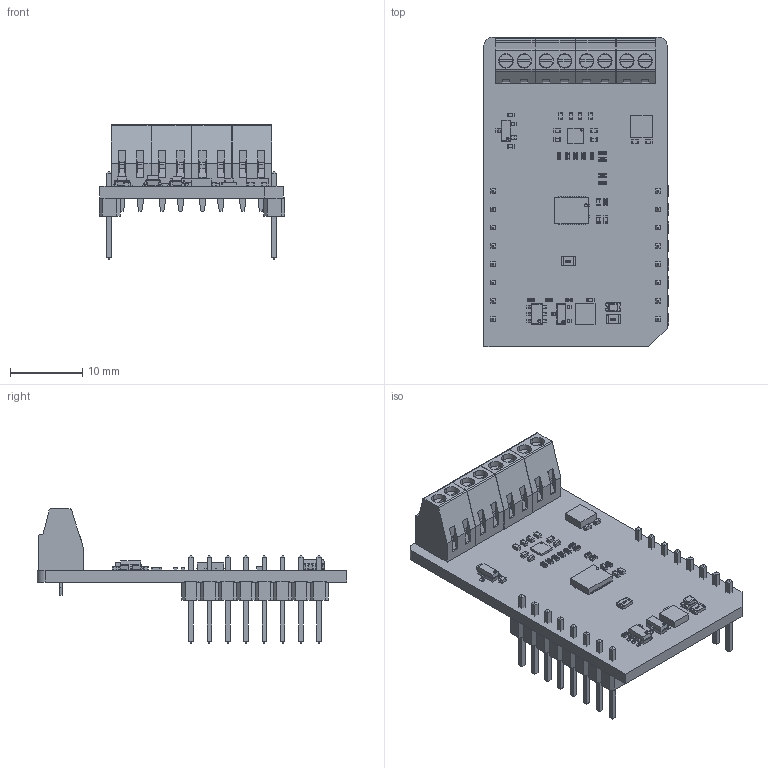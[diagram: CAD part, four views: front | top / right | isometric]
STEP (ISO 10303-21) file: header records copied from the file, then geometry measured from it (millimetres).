
FILE_DESCRIPTION(('Open CASCADE Model'),'2;1');
FILE_NAME('Open CASCADE Shape Model','2026-05-19T10:13:13',('Author'),( 'Open CASCADE'),'Open CASCADE STEP processor 7.5','Open CASCADE 7.5' ,'Unknown');
FILE_SCHEMA(('AUTOMOTIVE_DESIGN { 1 0 10303 214 1 1 1 1 }'));
Length unit declared in the file: millimetre
Products named in the file (78): PCB; Board; Open CASCADE STEP translator 7.5 2.1.1; R14; User Library-R_0402; R13; U6; 8184535872; Extruded; C16; User Library-SMD CAPACITOR0402; C15; U5; 8178916832; 8178916592; 8178915232; 8184537312; Cylinder; U4; 8184296208; 8184295968; Sphere; 8184205920; U3; SOT23-3; TB4; ScrewTerminal 2.54; TB3; TB2; TB1; R12; R11; R10; R9; R8; R7; R6; R5; C14; C13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
Assembly tree (153 placements, depth 7):
  PCB
    Board
      Open CASCADE STEP translator 7.5 2.1.1
    R14
      User Library-R_0402
    R13
      User Library-R_0402
    U6
      8184535872
        Extruded
    C16
      User Library-SMD CAPACITOR0402
    C15
      User Library-SMD CAPACITOR0402
    U5
      8178916832
        Extruded
      8178916592  x16
        Extruded
      8178915232  x4
        Extruded
      8184537312
        Cylinder
    U4
      8184296208
        Extruded
      8184295968  x25
        Sphere
      8184205920
        Cylinder
    U3
      SOT23-3
    TB4
      ScrewTerminal 2.54
    TB3
      ScrewTerminal 2.54
    TB2
      ScrewTerminal 2.54
    TB1
      ScrewTerminal 2.54
    R12
      User Library-R_0402
    R11
      User Library-R_0402
    R10
      User Library-R_0402
    R9
      User Library-R_0402
    R8
      User Library-R_0402
    R7
      User Library-R_0402
    R6
      User Library-R_0402
    R5
      User Library-R_0402
    C14
      User Library-SMD CAPACITOR0402
    C13
      User Library-SMD CAPACITOR0402
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Bounding box: 25.78 x 42.93 x 18.61 mm (x, y, z)
Volume: 3026.5 mm3; surface area: 6760.8 mm2
Topology: 168 solids, 168 shells, 3598 faces, 8936 edges, 5644 vertices
Faces by surface type: plane 2530, cylinder 483, bspline 422, sphere 163
Full cylindrical faces by diameter (mm): 0.2 x1, 0.4 x1
Entity records: 31980 total; most frequent: CARTESIAN_POINT 8489, ORIENTED_EDGE 3854, DIRECTION 3747, EDGE_CURVE 1927, LINE 1553, VECTOR 1553, VERTEX_POINT 1239, AXIS2_PLACEMENT_3D 1097
